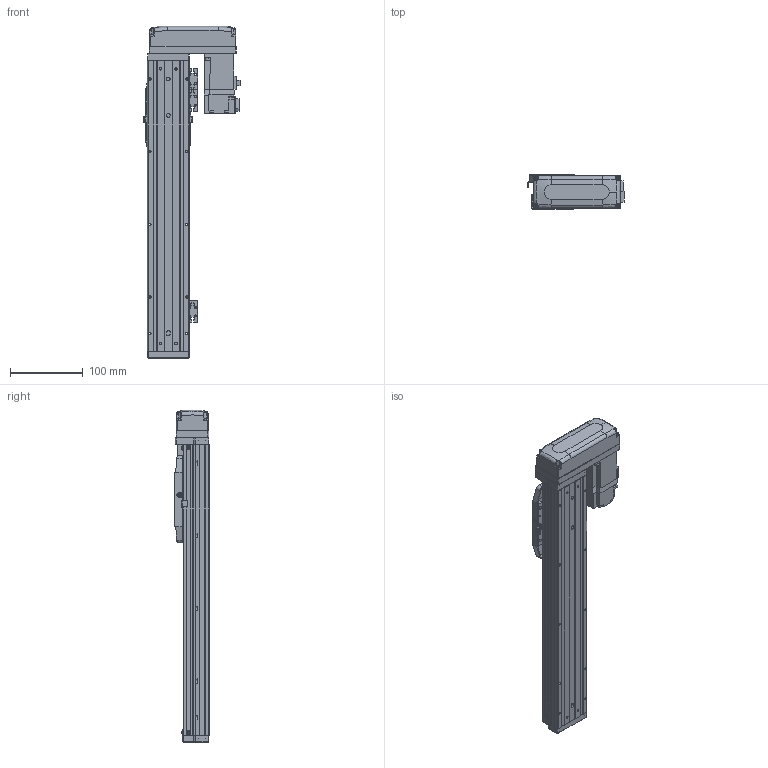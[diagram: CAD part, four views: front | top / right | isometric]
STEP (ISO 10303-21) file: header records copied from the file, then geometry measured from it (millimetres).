
FILE_DESCRIPTION (( 'STEP AP203' ), '1' );
FILE_NAME ('CTHA50-250-BL-M10-C4L.step', '2022-03-19T05:59:17', ( '微软用户' ), ( '微软中国' ), 'SwSTEP 2.0', 'SolidWorks 2020', '' );
FILE_SCHEMA (( 'CONFIG_CONTROL_DESIGN' ));
Length unit declared in the file: millimetre
Products named in the file (20): GBT77-2000 M3×3; CTHA50-002; CTHA50-250-BL-M10-C4L; KTHA50-004; GBT 70.1-M3℅6; CTHA50-030; CTHA60-017; CTHA50-031; GBT 70.1-M4×12; GBT 70.3-M3℅6; KTHA50-005; CTHA60-016; CTHA50-015-2_CTHA60-015-2; GB¨uT 70.2-M3¡Á6_M3¡Á6; CTHA60-021; CTHA60-033; EE_SX911P_R; HG-KR13（三菱）; GBT 70.1-M3×15; KTHA50-001_400
Assembly tree (60 placements, depth 2):
  CTHA50-250-BL-M10-C4L
    KTHA50-001_400
    KTHA50-004
    KTHA50-005
    GB¨uT 70.2-M3¡Á6_M3¡Á6  x10
    EE_SX911P_R  x3
    GBT77-2000 M3×3  x6
    GBT 70.1-M3℅6  x6
    CTHA60-017  x3
    GBT 70.1-M4×12  x10
    CTHA60-016  x2
    CTHA60-021  x2
    HG-KR13（三菱）
    CTHA50-002
    CTHA50-030  x2
    CTHA50-031
    GBT 70.3-M3℅6  x4
    CTHA50-015-2_CTHA60-015-2
    CTHA60-033
    GBT 70.1-M3×15  x4
Bounding box: 132.6 x 48 x 457 mm (x, y, z)
Volume: 1018484 mm3; surface area: 265406.9 mm2
Topology: 62 solids, 62 shells, 2493 faces, 5911 edges, 3618 vertices
Faces by surface type: plane 1410, cylinder 576, cone 349, torus 108, bspline 26, sphere 24
Entity records: 42039 total; most frequent: CARTESIAN_POINT 7771, DIRECTION 6535, ORIENTED_EDGE 6330, EDGE_CURVE 3165, VECTOR 2211, LINE 2211, AXIS2_PLACEMENT_3D 2162, VERTEX_POINT 1992
